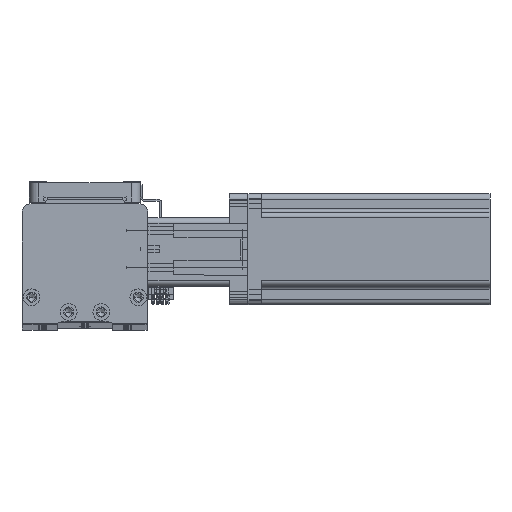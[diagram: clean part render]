
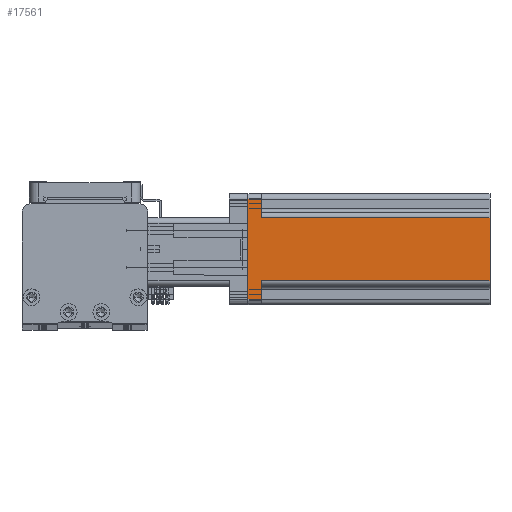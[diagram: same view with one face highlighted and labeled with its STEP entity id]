
A CAD part, top view. The second image highlights one B-rep face of the part: STEP entity #17561.
In plain terms, the highlighted planar face has unit normal (0, 0, 1) as drawn and (1, 0, 0) by its records, which use the part's own axes.
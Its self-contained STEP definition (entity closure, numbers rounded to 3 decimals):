
#52 = CARTESIAN_POINT ( 'NONE',  ( 30., -30., 7.5 ) ) ;
#1141 = ORIENTED_EDGE ( 'NONE', *, *, #22781, .T. ) ;
#1291 = EDGE_CURVE ( 'NONE', #37726, #18047, #10343, .T. ) ;
#2931 = EDGE_CURVE ( 'NONE', #37726, #7705, #13416, .T. ) ;
#2934 = VERTEX_POINT ( 'NONE', #7940 ) ;
#3747 = CARTESIAN_POINT ( 'NONE',  ( 30., -17., 7.5 ) ) ;
#4526 = CARTESIAN_POINT ( 'NONE',  ( 30., 27., 130.7 ) ) ;
#5686 = CARTESIAN_POINT ( 'NONE',  ( 30., -27., 0. ) ) ;
#5784 = FACE_OUTER_BOUND ( 'NONE', #23305, .T. ) ;
#6986 = LINE ( 'NONE', #4526, #16763 ) ;
#7372 = DIRECTION ( 'NONE',  ( 0., 0., -1. ) ) ;
#7705 = VERTEX_POINT ( 'NONE', #33192 ) ;
#7940 = CARTESIAN_POINT ( 'NONE',  ( 30., 17., 7.5 ) ) ;
#8113 = DIRECTION ( 'NONE',  ( 0., 1., 0. ) ) ;
#8841 = VECTOR ( 'NONE', #24053, 1000. ) ;
#10343 = LINE ( 'NONE', #18060, #51813 ) ;
#12452 = DIRECTION ( 'NONE',  ( 0., -1., 0. ) ) ;
#13416 = LINE ( 'NONE', #3747, #35428 ) ;
#14880 = VERTEX_POINT ( 'NONE', #26399 ) ;
#15382 = VECTOR ( 'NONE', #7372, 1000. ) ;
#15680 = CARTESIAN_POINT ( 'NONE',  ( 30., 27., 0. ) ) ;
#16230 = CARTESIAN_POINT ( 'NONE',  ( 30., -30., 130.7 ) ) ;
#16763 = VECTOR ( 'NONE', #46024, 1000. ) ;
#17073 = ORIENTED_EDGE ( 'NONE', *, *, #45320, .T. ) ;
#17561 = ADVANCED_FACE ( 'NONE', ( #5784 ), #53375, .F. ) ;
#18047 = VERTEX_POINT ( 'NONE', #31918 ) ;
#18060 = CARTESIAN_POINT ( 'NONE',  ( 30., -30., 130.7 ) ) ;
#18638 = EDGE_CURVE ( 'NONE', #49553, #30159, #25108, .T. ) ;
#19230 = VECTOR ( 'NONE', #12452, 1000. ) ;
#19485 = ORIENTED_EDGE ( 'NONE', *, *, #2931, .T. ) ;
#19869 = CARTESIAN_POINT ( 'NONE',  ( 30., -30., 0. ) ) ;
#19915 = VERTEX_POINT ( 'NONE', #15680 ) ;
#20173 = ORIENTED_EDGE ( 'NONE', *, *, #51713, .T. ) ;
#20381 = DIRECTION ( 'NONE',  ( 0., 0., 1. ) ) ;
#21208 = LINE ( 'NONE', #19869, #8841 ) ;
#22239 = DIRECTION ( 'NONE',  ( 0., 1., 0. ) ) ;
#22781 = EDGE_CURVE ( 'NONE', #2934, #18047, #41042, .T. ) ;
#23305 = EDGE_LOOP ( 'NONE', ( #52090, #19485, #45159, #37263, #17073, #20173, #49440, #1141 ) ) ;
#24053 = DIRECTION ( 'NONE',  ( 0., 1., 0. ) ) ;
#25108 = LINE ( 'NONE', #44360, #15382 ) ;
#26399 = CARTESIAN_POINT ( 'NONE',  ( 30., 27., 7.5 ) ) ;
#28955 = EDGE_CURVE ( 'NONE', #7705, #49553, #41266, .T. ) ;
#29998 = VECTOR ( 'NONE', #34435, 1000. ) ;
#30159 = VERTEX_POINT ( 'NONE', #5686 ) ;
#30385 = LINE ( 'NONE', #45299, #41432 ) ;
#31918 = CARTESIAN_POINT ( 'NONE',  ( 30., 17., 130.7 ) ) ;
#32327 = CARTESIAN_POINT ( 'NONE',  ( 30., -17., 130.7 ) ) ;
#32762 = DIRECTION ( 'NONE',  ( 0., 0., -1. ) ) ;
#33192 = CARTESIAN_POINT ( 'NONE',  ( 30., -17., 7.5 ) ) ;
#34435 = DIRECTION ( 'NONE',  ( 0., 0., 1. ) ) ;
#35428 = VECTOR ( 'NONE', #32762, 1000. ) ;
#37263 = ORIENTED_EDGE ( 'NONE', *, *, #18638, .T. ) ;
#37726 = VERTEX_POINT ( 'NONE', #32327 ) ;
#41042 = LINE ( 'NONE', #50904, #29998 ) ;
#41266 = LINE ( 'NONE', #52, #19230 ) ;
#41432 = VECTOR ( 'NONE', #8113, 1000. ) ;
#41664 = CARTESIAN_POINT ( 'NONE',  ( 30., -27., 7.5 ) ) ;
#43628 = AXIS2_PLACEMENT_3D ( 'NONE', #16230, #45221, #20381 ) ;
#44360 = CARTESIAN_POINT ( 'NONE',  ( 30., -27., 130.7 ) ) ;
#45159 = ORIENTED_EDGE ( 'NONE', *, *, #28955, .T. ) ;
#45221 = DIRECTION ( 'NONE',  ( -1., 0., 0. ) ) ;
#45299 = CARTESIAN_POINT ( 'NONE',  ( 30., 30., 7.5 ) ) ;
#45320 = EDGE_CURVE ( 'NONE', #30159, #19915, #21208, .T. ) ;
#46024 = DIRECTION ( 'NONE',  ( 0., 0., 1. ) ) ;
#46943 = EDGE_CURVE ( 'NONE', #2934, #14880, #30385, .T. ) ;
#49440 = ORIENTED_EDGE ( 'NONE', *, *, #46943, .F. ) ;
#49553 = VERTEX_POINT ( 'NONE', #41664 ) ;
#50904 = CARTESIAN_POINT ( 'NONE',  ( 30., 17., 130.7 ) ) ;
#51713 = EDGE_CURVE ( 'NONE', #19915, #14880, #6986, .T. ) ;
#51813 = VECTOR ( 'NONE', #22239, 1000. ) ;
#52090 = ORIENTED_EDGE ( 'NONE', *, *, #1291, .F. ) ;
#53375 = PLANE ( 'NONE',  #43628 ) ;
